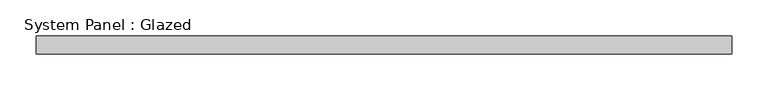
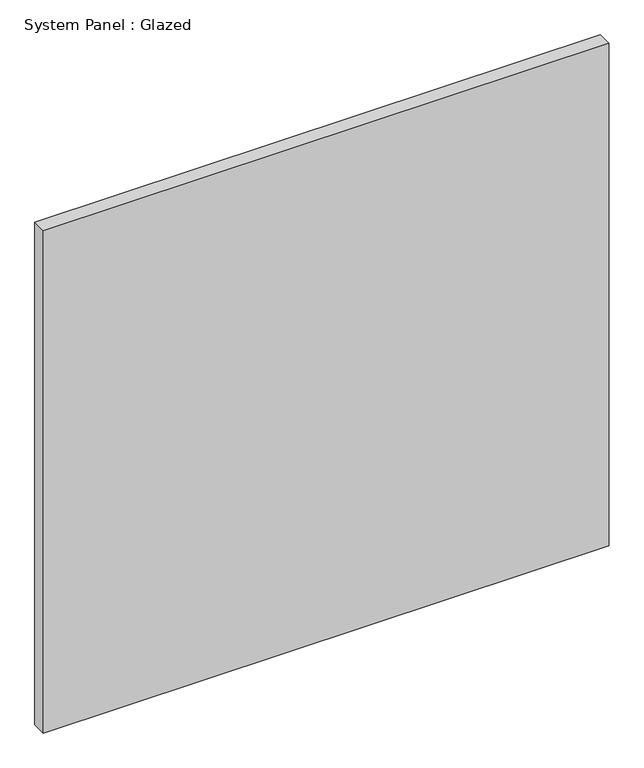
"""IFC4 building model written with IfcOpenShell, lengths in millimetres: plate geometry, System Panel : Glazed."""

from ifc_helpers import new_model, si_unit, origin, origin_with_axes, place, context, project, spatial, polyline, outline, extrude, source, transform, mapped, element, save


def system_panel_glazed_82657a15(model_context):
    return source(origin(), model_context, "Body", "SweptSolid", [
        extrude(outline(polyline([(482.5, 24.5), (-482.5, 24.5), (-482.5, 49.5), (482.5, 49.5), (482.5, 24.5)])), origin_with_axes(), (0.0, 0.0, 1.0), 905.5153381),
    ])


if __name__ == "__main__":
    model = new_model("IFC4")
    model_context = context("Model", 3, world=origin())
    ifc_project = project(units=[si_unit("LENGTHUNIT", "METRE", prefix="MILLI")], contexts=[model_context])
    site = spatial("IfcSite", under=ifc_project)
    building = spatial("IfcBuilding", under=site)
    placement = place(None, origin())
    system_panel_glazed_shape = system_panel_glazed_82657a15(model_context)
    element("IfcPlate", 1, ObjectType="System Panel : Glazed", at=placement, inside=building, context=model_context, shape_type="MappedRepresentation", body=[
        mapped(system_panel_glazed_shape, transform((0.0, 0.0, 0.0), x_axis=(1.0, 0.0, 0.0), y_axis=(0.0, 1.0, 0.0), z_axis=(0.0, 0.0, 1.0))),
    ])
    save(model, "model.ifc")
